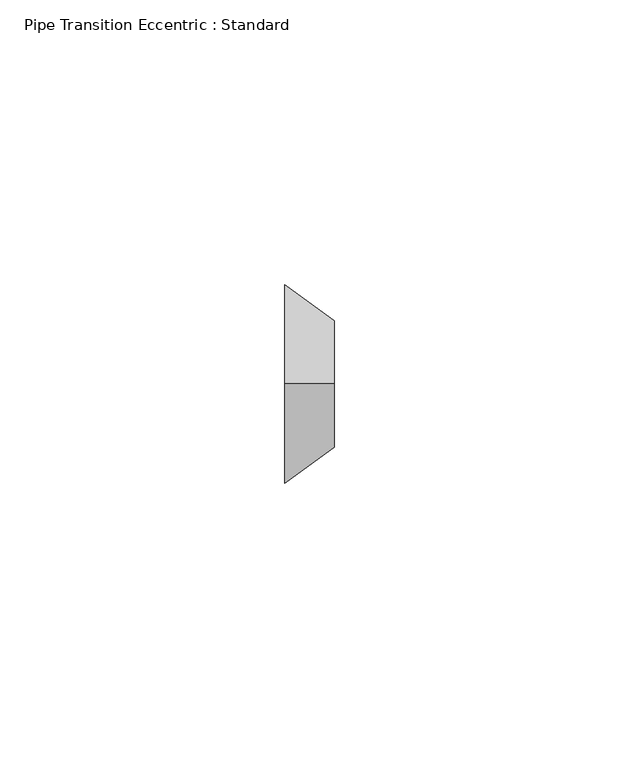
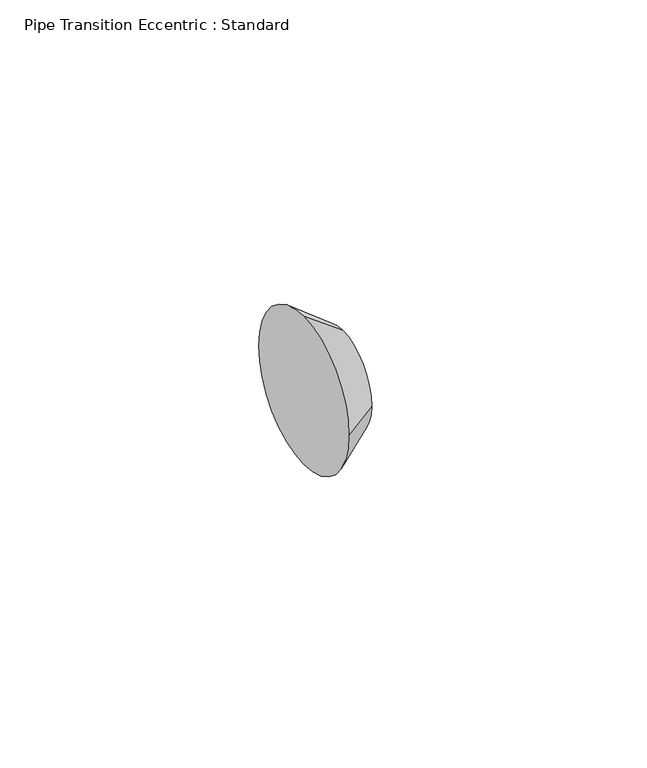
"""IFC4 building model written with IfcOpenShell, lengths in millimetres: pipe fitting geometry, Pipe Transition Eccentric : Standard."""

from ifc_helpers import new_model, si_unit, frame, origin, place, context, project, spatial, polyline, circle_curve, source, transform, mapped, element, save
from ifc_brep_helpers import plane_surface, revolved_surface, advanced_brep


def pipe_transition_eccentric_standard_cc8be3f1(model_context):
    return source(origin(), model_context, "Body", "AdvancedBrep", [
        advanced_brep(
        [(8.73125, 0.0, 11.1125), (8.73125, -11.1125, 0.0), (8.73125, 0.0, -11.1125), (8.73125, 11.1125, 0.0), (0.0, 0.0, 17.4625), (0.0, 17.4625, 0.0), (0.0, 0.0, -17.4625), (0.0, -17.4625, 0.0)],
        [
            (0, 1, circle_curve(frame((8.73125, 0.0, 0.0), z_axis=(1.0, 0.0, 0.0), x_axis=(0.0, 0.0, 1.0)), 11.1125)),
            (1, 2, circle_curve(frame((8.73125, 0.0, 0.0), z_axis=(1.0, 0.0, 0.0), x_axis=(0.0, -1.0, 0.0)), 11.1125)),
            (2, 3, circle_curve(frame((8.73125, 0.0, 0.0), z_axis=(1.0, 0.0, 0.0), x_axis=(0.0, 0.0, -1.0)), 11.1125)),
            (3, 0, circle_curve(frame((8.73125, 0.0, 0.0), z_axis=(1.0, 0.0, 0.0), x_axis=(0.0, 1.0, 0.0)), 11.1125)),
            (4, 5, circle_curve(frame((0.0, 0.0, 0.0), z_axis=(-1.0, 0.0, 0.0), x_axis=(0.0, 1.0, 0.0)), 17.4625)),
            (5, 6, circle_curve(frame((0.0, 0.0, 0.0), z_axis=(-1.0, 0.0, 0.0), x_axis=(0.0, 0.0, -1.0)), 17.4625)),
            (6, 7, circle_curve(frame((0.0, 0.0, 0.0), z_axis=(-1.0, 0.0, 0.0), x_axis=(0.0, -1.0, 0.0)), 17.4625)),
            (7, 4, circle_curve(frame((0.0, 0.0, 0.0), z_axis=(-1.0, 0.0, 0.0), x_axis=(0.0, 0.0, 1.0)), 17.4625)),
            (7, 1),
            (0, 4),
            (6, 2),
            (5, 3),
        ],
        [
            plane_surface(frame((8.73125, 0.0, 0.0), z_axis=(1.0, 0.0, 0.0), x_axis=(0.0, -1.0, 0.0))),
            plane_surface(frame((0.0, 0.0, 0.0), z_axis=(-1.0, 0.0, 0.0), x_axis=(0.0, -1.0, 0.0))),
            revolved_surface(polyline([(8.731250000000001, 0.0, 11.112499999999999), (0.0, 0.0, 17.4625)]), (24.0109375, 0.0, 0.0), (-1.0, 0.0, 0.0)),
            revolved_surface(polyline([(8.731250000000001, -11.112499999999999, 0.0), (0.0, -17.4625, 0.0)]), (24.0109375, 0.0, 0.0), (-1.0, 0.0, 0.0)),
            revolved_surface(polyline([(8.731250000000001, 0.0, -11.112499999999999), (0.0, 0.0, -17.4625)]), (24.0109375, 0.0, 0.0), (-1.0, 0.0, 0.0)),
            revolved_surface(polyline([(8.731250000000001, 11.112499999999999, 0.0), (0.0, 17.4625, 0.0)]), (24.0109375, 0.0, 0.0), (-1.0, 0.0, 0.0)),
        ],
        [
            (0, [[1, 2, 3, 4]]),
            (1, [[5, 6, 7, 8]]),
            (2, [[-8, 9, -1, 10]]),
            (3, [[-7, 11, -2, -9]]),
            (4, [[-6, 12, -3, -11]]),
            (5, [[-5, -10, -4, -12]]),
        ],
    ),
        advanced_brep(
        [(8.73125, 0.0, 11.1125), (8.73125, -11.1125, 0.0), (8.73125, 0.0, -11.1125), (8.73125, 11.1125, 0.0), (0.0, 0.0, 17.4625), (0.0, 17.4625, 0.0), (0.0, 0.0, -17.4625), (0.0, -17.4625, 0.0)],
        [
            (0, 1, circle_curve(frame((8.73125, 0.0, 0.0), z_axis=(1.0, 0.0, 0.0), x_axis=(0.0, 0.0, 1.0)), 11.1125)),
            (1, 2, circle_curve(frame((8.73125, 0.0, 0.0), z_axis=(1.0, 0.0, 0.0), x_axis=(0.0, -1.0, 0.0)), 11.1125)),
            (2, 3, circle_curve(frame((8.73125, 0.0, 0.0), z_axis=(1.0, 0.0, -1.5326594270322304e-12), x_axis=(-1.5327175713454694e-12, 0.0, -1.0)), 11.1125)),
            (3, 0, circle_curve(frame((8.73125, 0.0, 0.0), z_axis=(1.0, 0.0, 0.0), x_axis=(0.0, 1.0, 0.0)), 11.1125)),
            (4, 5, circle_curve(frame((0.0, 0.0, 0.0), z_axis=(-1.0, 0.0, 0.0), x_axis=(0.0, 1.0, 0.0)), 17.4625)),
            (5, 6, circle_curve(frame((0.0, 0.0, 0.0), z_axis=(-1.0, 0.0, 1.5326594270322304e-12), x_axis=(-1.5327175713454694e-12, 0.0, -1.0)), 17.4625)),
            (6, 7, circle_curve(frame((0.0, 0.0, 0.0), z_axis=(-1.0, 0.0, 0.0), x_axis=(0.0, -1.0, 0.0)), 17.4625)),
            (7, 4, circle_curve(frame((0.0, 0.0, 0.0), z_axis=(-1.0, 0.0, 0.0), x_axis=(0.0, 0.0, 1.0)), 17.4625)),
            (7, 1),
            (0, 4),
            (6, 2),
            (5, 3),
        ],
        [
            plane_surface(frame((8.73125, 0.0, 0.0), z_axis=(1.0, 0.0, 0.0), x_axis=(0.0, -1.0, 0.0))),
            plane_surface(frame((0.0, 0.0, 0.0), z_axis=(-1.0, 0.0, 0.0), x_axis=(0.0, -1.0, 0.0))),
            revolved_surface(polyline([(8.731250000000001, 0.0, 11.112499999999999), (0.0, 0.0, 17.4625)]), (24.0109375, 0.0, 0.0), (-1.0, 0.0, 0.0)),
            revolved_surface(polyline([(8.731250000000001, -11.112499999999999, 0.0), (0.0, -17.4625, 0.0)]), (24.0109375, 0.0, 0.0), (-1.0, 0.0, 0.0)),
            revolved_surface(polyline([(8.731250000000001, 0.0, -11.112499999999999), (-2.6762592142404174e-11, 0.0, -17.462500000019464)]), (24.0109375, 0.0, 0.0), (-1.0, 0.0, 1.5326594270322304e-12)),
            revolved_surface(polyline([(8.731250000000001, 11.112499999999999, 0.0), (0.0, 17.4625, 0.0)]), (24.0109375, 0.0, 0.0), (-1.0, 0.0, 0.0)),
        ],
        [
            (0, [[1, 2, 3, 4]]),
            (1, [[5, 6, 7, 8]]),
            (2, [[-8, 9, -1, 10]]),
            (3, [[-7, 11, -2, -9]]),
            (4, [[-6, 12, -3, -11]]),
            (5, [[-5, -10, -4, -12]]),
        ],
    ),
    ])


if __name__ == "__main__":
    model = new_model("IFC4")
    model_context = context("Model", 3, world=origin())
    ifc_project = project(units=[si_unit("LENGTHUNIT", "METRE", prefix="MILLI")], contexts=[model_context])
    site = spatial("IfcSite", under=ifc_project)
    building = spatial("IfcBuilding", under=site)
    placement = place(None, origin())
    pipe_transition_eccentric_standard_shape = pipe_transition_eccentric_standard_cc8be3f1(model_context)
    element("IfcPipeFitting", 1, ObjectType="Pipe Transition Eccentric : Standard", at=placement, inside=building, context=model_context, shape_type="MappedRepresentation", body=[
        mapped(pipe_transition_eccentric_standard_shape, transform((0.0, 0.0, 0.0), x_axis=(1.0, 0.0, 0.0), y_axis=(0.0, 1.0, 0.0), z_axis=(0.0, 0.0, 1.0))),
    ])
    save(model, "model.ifc")
